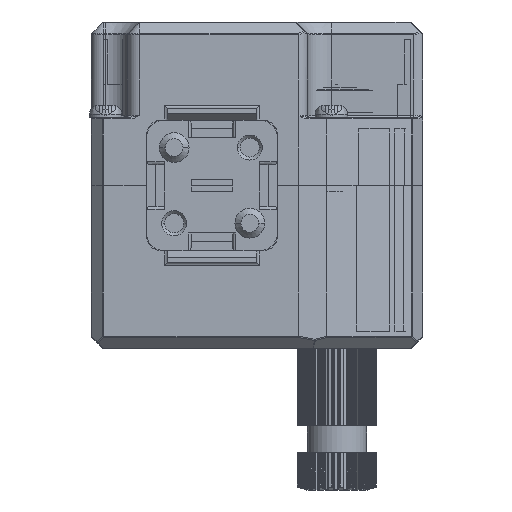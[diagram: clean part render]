
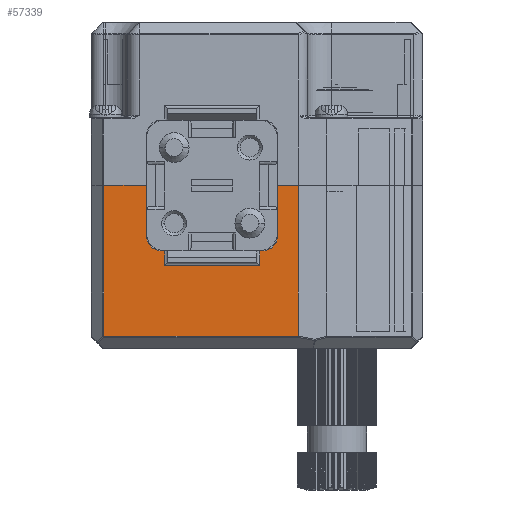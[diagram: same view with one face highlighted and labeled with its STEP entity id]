
A CAD part, front view. The second image highlights one B-rep face of the part: STEP entity #57339.
In plain terms, the highlighted planar face has unit normal (0, -1, 0).
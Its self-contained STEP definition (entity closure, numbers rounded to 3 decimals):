
#1007 = VERTEX_POINT ( 'NONE', #21386 ) ;
#1499 = CIRCLE ( 'NONE', #55267, 7.5 ) ;
#1836 = LINE ( 'NONE', #72278, #71562 ) ;
#3534 = DIRECTION ( 'NONE',  ( 0., 0., 1. ) ) ;
#4266 = ORIENTED_EDGE ( 'NONE', *, *, #10635, .F. ) ;
#5524 = DIRECTION ( 'NONE',  ( 1., 0., 0. ) ) ;
#7637 = ORIENTED_EDGE ( 'NONE', *, *, #14534, .F. ) ;
#9244 = VERTEX_POINT ( 'NONE', #96448 ) ;
#9641 = DIRECTION ( 'NONE',  ( 1., 0., 0. ) ) ;
#10635 = EDGE_CURVE ( 'NONE', #9244, #65580, #21325, .T. ) ;
#10896 = CARTESIAN_POINT ( 'NONE',  ( 71.838, 990.14, -168.7 ) ) ;
#11853 = VERTEX_POINT ( 'NONE', #24065 ) ;
#11897 = ORIENTED_EDGE ( 'NONE', *, *, #15137, .F. ) ;
#13154 = AXIS2_PLACEMENT_3D ( 'NONE', #51541, #52589, #19220 ) ;
#14242 = ORIENTED_EDGE ( 'NONE', *, *, #39963, .F. ) ;
#14534 = EDGE_CURVE ( 'NONE', #19186, #44617, #39746, .T. ) ;
#15137 = EDGE_CURVE ( 'NONE', #90822, #11853, #99331, .T. ) ;
#15493 = VECTOR ( 'NONE', #76153, 1000. ) ;
#16101 = EDGE_CURVE ( 'NONE', #1007, #9244, #1499, .T. ) ;
#17084 = CARTESIAN_POINT ( 'NONE',  ( 69.714, 990.14, -154.324 ) ) ;
#18303 = CARTESIAN_POINT ( 'NONE',  ( 104.586, 990.139, -143.324 ) ) ;
#19186 = VERTEX_POINT ( 'NONE', #90590 ) ;
#19220 = DIRECTION ( 'NONE',  ( -1., 0., 0. ) ) ;
#19431 = EDGE_LOOP ( 'NONE', ( #11897, #78348, #79464, #4266, #92090, #14242 ) ) ;
#19487 = CARTESIAN_POINT ( 'NONE',  ( 71.838, 990.14, -143.324 ) ) ;
#20423 = CARTESIAN_POINT ( 'NONE',  ( 69.714, 990.14, -143.324 ) ) ;
#21325 = LINE ( 'NONE', #20423, #83459 ) ;
#21386 = CARTESIAN_POINT ( 'NONE',  ( 82.564, 990.14, -143.324 ) ) ;
#24065 = CARTESIAN_POINT ( 'NONE',  ( 71.838, 990.14, -143.324 ) ) ;
#26488 = DIRECTION ( 'NONE',  ( 0., 0., -1. ) ) ;
#27059 = VECTOR ( 'NONE', #3534, 1000. ) ;
#31062 = EDGE_CURVE ( 'NONE', #34510, #90822, #32809, .T. ) ;
#32809 = LINE ( 'NONE', #96538, #58106 ) ;
#33316 = VERTEX_POINT ( 'NONE', #57915 ) ;
#34510 = VERTEX_POINT ( 'NONE', #96412 ) ;
#37609 = EDGE_CURVE ( 'NONE', #44617, #39489, #72802, .T. ) ;
#39275 = VECTOR ( 'NONE', #26488, 1000. ) ;
#39489 = VERTEX_POINT ( 'NONE', #71404 ) ;
#39746 = LINE ( 'NONE', #46203, #101979 ) ;
#39963 = EDGE_CURVE ( 'NONE', #11853, #1007, #88962, .T. ) ;
#41869 = EDGE_CURVE ( 'NONE', #65580, #34510, #82356, .T. ) ;
#44617 = VERTEX_POINT ( 'NONE', #76084 ) ;
#46203 = CARTESIAN_POINT ( 'NONE',  ( 98.064, 990.139, -143.324 ) ) ;
#50293 = ORIENTED_EDGE ( 'NONE', *, *, #37609, .F. ) ;
#50996 = VECTOR ( 'NONE', #9641, 1000. ) ;
#51452 = DIRECTION ( 'NONE',  ( 1., 0., 0. ) ) ;
#51541 = CARTESIAN_POINT ( 'NONE',  ( 69.714, 990.14, -143.324 ) ) ;
#52233 = PLANE ( 'NONE',  #13154 ) ;
#52589 = DIRECTION ( 'NONE',  ( 0., 1., 0. ) ) ;
#55267 = AXIS2_PLACEMENT_3D ( 'NONE', #100634, #99951, #51452 ) ;
#57339 = ADVANCED_FACE ( 'NONE', ( #65768, #64459 ), #52233, .F. ) ;
#57915 = CARTESIAN_POINT ( 'NONE',  ( 82.064, 990.14, -156.824 ) ) ;
#58106 = VECTOR ( 'NONE', #96190, 1000. ) ;
#60335 = CARTESIAN_POINT ( 'NONE',  ( 69.714, 990.14, -156.824 ) ) ;
#61884 = DIRECTION ( 'NONE',  ( 0., 0., 1. ) ) ;
#64112 = EDGE_LOOP ( 'NONE', ( #50293, #7637, #80275, #98692 ) ) ;
#64459 = FACE_OUTER_BOUND ( 'NONE', #19431, .T. ) ;
#65580 = VERTEX_POINT ( 'NONE', #84654 ) ;
#65768 = FACE_BOUND ( 'NONE', #64112, .T. ) ;
#71404 = CARTESIAN_POINT ( 'NONE',  ( 82.064, 990.14, -154.324 ) ) ;
#71562 = VECTOR ( 'NONE', #95689, 1000. ) ;
#72278 = CARTESIAN_POINT ( 'NONE',  ( 82.064, 990.14, -143.324 ) ) ;
#72802 = LINE ( 'NONE', #17084, #103252 ) ;
#73785 = DIRECTION ( 'NONE',  ( -1., 0., 0. ) ) ;
#76084 = CARTESIAN_POINT ( 'NONE',  ( 98.064, 990.139, -154.324 ) ) ;
#76153 = DIRECTION ( 'NONE',  ( 1., 0., 0. ) ) ;
#78348 = ORIENTED_EDGE ( 'NONE', *, *, #31062, .F. ) ;
#79430 = EDGE_CURVE ( 'NONE', #33316, #19186, #87783, .T. ) ;
#79464 = ORIENTED_EDGE ( 'NONE', *, *, #41869, .F. ) ;
#80275 = ORIENTED_EDGE ( 'NONE', *, *, #79430, .F. ) ;
#82356 = LINE ( 'NONE', #18303, #39275 ) ;
#83459 = VECTOR ( 'NONE', #5524, 1000. ) ;
#84654 = CARTESIAN_POINT ( 'NONE',  ( 104.586, 990.139, -143.324 ) ) ;
#87783 = LINE ( 'NONE', #60335, #15493 ) ;
#88962 = LINE ( 'NONE', #90443, #50996 ) ;
#90443 = CARTESIAN_POINT ( 'NONE',  ( 69.714, 990.14, -143.324 ) ) ;
#90590 = CARTESIAN_POINT ( 'NONE',  ( 98.064, 990.139, -156.824 ) ) ;
#90822 = VERTEX_POINT ( 'NONE', #10896 ) ;
#92090 = ORIENTED_EDGE ( 'NONE', *, *, #16101, .F. ) ;
#95689 = DIRECTION ( 'NONE',  ( 0., 0., -1. ) ) ;
#96190 = DIRECTION ( 'NONE',  ( -1., 0., 0. ) ) ;
#96412 = CARTESIAN_POINT ( 'NONE',  ( 104.586, 990.139, -168.7 ) ) ;
#96448 = CARTESIAN_POINT ( 'NONE',  ( 97.564, 990.139, -143.324 ) ) ;
#96538 = CARTESIAN_POINT ( 'NONE',  ( 69.714, 990.14, -168.7 ) ) ;
#98692 = ORIENTED_EDGE ( 'NONE', *, *, #103379, .F. ) ;
#99331 = LINE ( 'NONE', #19487, #27059 ) ;
#99951 = DIRECTION ( 'NONE',  ( 0., -1., 0. ) ) ;
#100634 = CARTESIAN_POINT ( 'NONE',  ( 90.064, 990.14, -143.324 ) ) ;
#101979 = VECTOR ( 'NONE', #61884, 1000. ) ;
#103252 = VECTOR ( 'NONE', #73785, 1000. ) ;
#103379 = EDGE_CURVE ( 'NONE', #39489, #33316, #1836, .T. ) ;
